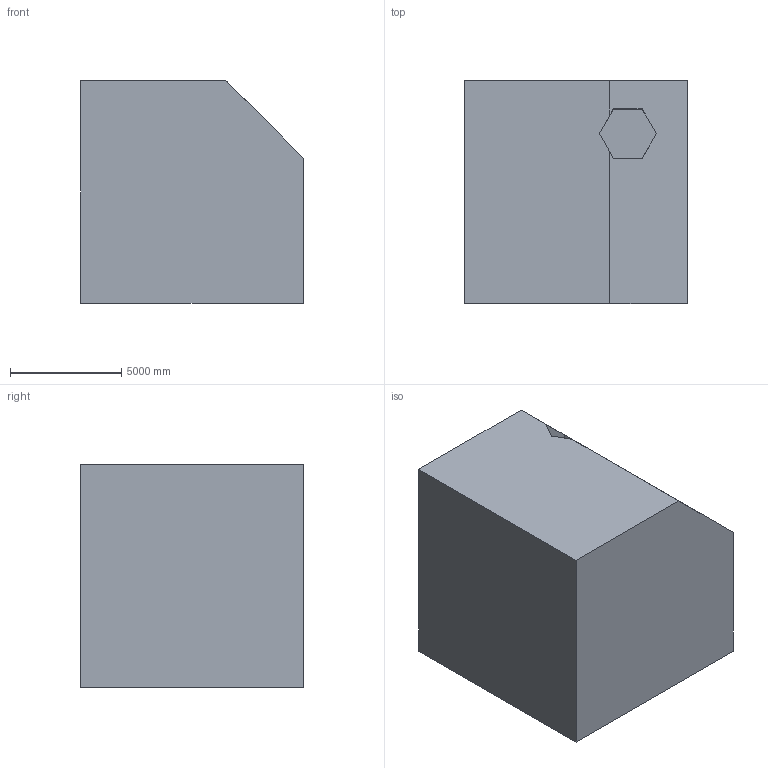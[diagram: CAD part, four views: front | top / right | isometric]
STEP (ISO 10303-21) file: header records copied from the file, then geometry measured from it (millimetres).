
FILE_DESCRIPTION (( 'STEP AP203' ), '1' );
FILE_NAME ('314.STEP', '2022-07-28T14:18:29', ( 'user' ), ( '' ), 'SwSTEP 2.0', 'SolidWorks 2021', '' );
FILE_SCHEMA (( 'CONFIG_CONTROL_DESIGN' ));
Length unit declared in the file: centimetre
Products named in the file (1): 314
Bounding box: 10000 x 10000 x 10000 mm (x, y, z)
Volume: 874650171200.4 mm3; surface area: 669987012.5 mm2
Topology: 1 solids, 1 shells, 26 faces, 75 edges, 50 vertices
Faces by surface type: plane 24, cylinder 2
Entity records: 924 total; most frequent: CARTESIAN_POINT 164, ORIENTED_EDGE 150, DIRECTION 129, EDGE_CURVE 75, LINE 67, VECTOR 67, VERTEX_POINT 50, AXIS2_PLACEMENT_3D 31
